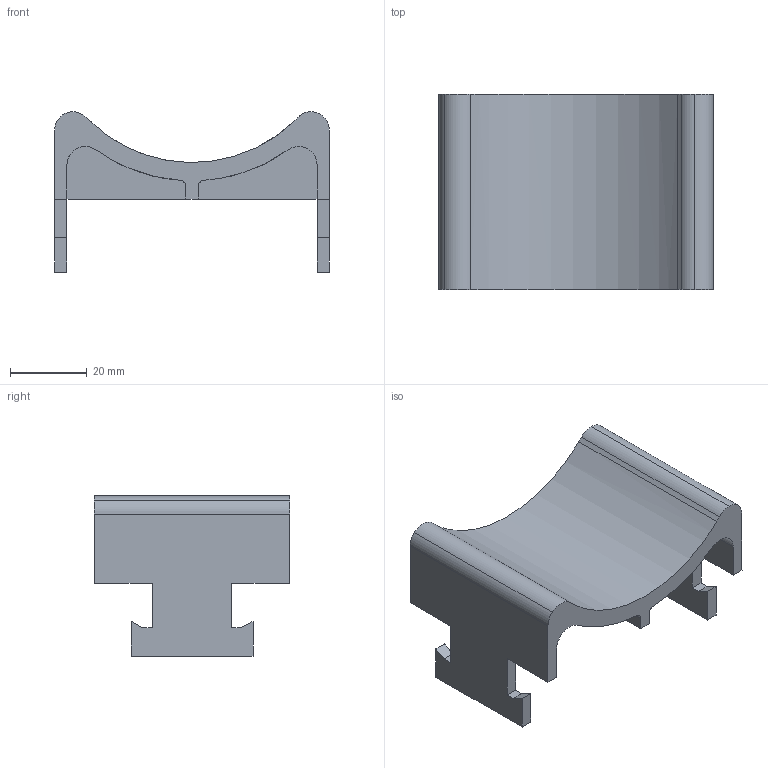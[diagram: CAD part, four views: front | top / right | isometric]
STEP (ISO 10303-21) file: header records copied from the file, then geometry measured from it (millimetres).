
FILE_DESCRIPTION(('TurboCAD Mac Pro'),'Build 980');
FILE_NAME('P1753FG.stp',' ',(''),(''),'ACIS Interop','IMSI','TurboCAD Mac Pro BY IMSI, INCORPORATED');
FILE_SCHEMA(('automotive_design'));
Length unit declared in the file: inch
Products named in the file (1): 1
Bounding box: 71.44 x 50.8 x 41.79 mm (x, y, z)
Volume: 41665.4 mm3; surface area: 15302 mm2
Topology: 1 solids, 1 shells, 63 faces, 173 edges, 112 vertices
Faces by surface type: plane 41, bspline 19, cylinder 3
Entity records: 2615 total; most frequent: CARTESIAN_POINT 604, ORIENTED_EDGE 346, DIRECTION 241, EDGE_CURVE 173, LINE 127, VECTOR 127, VERTEX_POINT 112, STYLED_ITEM 64
